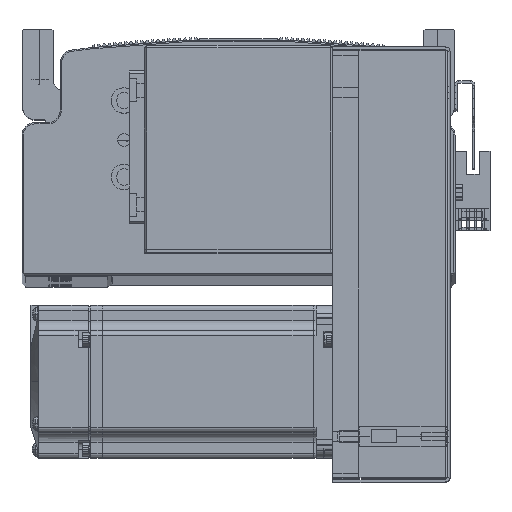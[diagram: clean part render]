
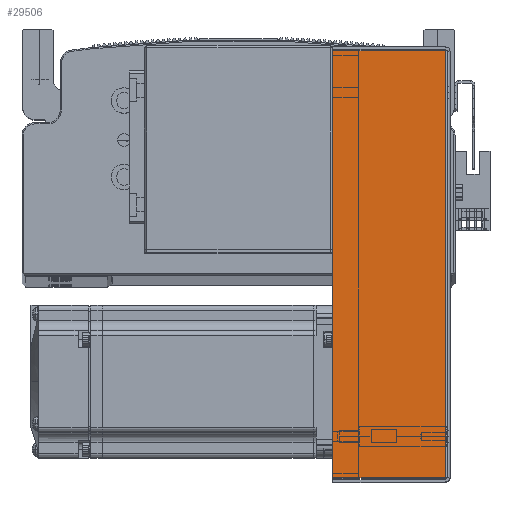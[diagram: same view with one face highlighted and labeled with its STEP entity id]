
A CAD part, top view. The second image highlights one B-rep face of the part: STEP entity #29506.
In plain terms, the highlighted planar face has unit normal (0, 0, 1) as drawn and (0, 0, -1) by its records, which use the part's own axes.
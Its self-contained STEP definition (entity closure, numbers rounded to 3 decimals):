
#5498 = EDGE_CURVE ( 'NONE', #64483, #64485, #33702, .T. ) ;
#5528 = EDGE_CURVE ( 'NONE', #64481, #64485, #33642, .T. ) ;
#5538 = EDGE_CURVE ( 'NONE', #64525, #64483, #33439, .T. ) ;
#5555 = EDGE_CURVE ( 'NONE', #64525, #64481, #30036, .T. ) ;
#13250 = FACE_OUTER_BOUND ( 'NONE', #34453, .T. ) ;
#18194 = AXIS2_PLACEMENT_3D ( 'NONE', #46067, #46049, #46068 ) ;
#29506 = ADVANCED_FACE ( 'NONE', ( #13250 ), #46066, .F. ) ;
#30019 = VECTOR ( 'NONE', #92920, 1000. ) ;
#30036 = LINE ( 'NONE', #92912, #30019 ) ;
#33439 = LINE ( 'NONE', #92865, #33533 ) ;
#33533 = VECTOR ( 'NONE', #92867, 1000. ) ;
#33642 = LINE ( 'NONE', #92854, #33682 ) ;
#33682 = VECTOR ( 'NONE', #92850, 1000. ) ;
#33702 = LINE ( 'NONE', #92873, #33704 ) ;
#33704 = VECTOR ( 'NONE', #92840, 1000. ) ;
#34453 = EDGE_LOOP ( 'NONE', ( #88496, #88500, #88557, #88510 ) ) ;
#46049 = DIRECTION ( 'NONE',  ( 0., 0., 1. ) ) ;
#46066 = PLANE ( 'NONE',  #18194 ) ;
#46067 = CARTESIAN_POINT ( 'NONE',  ( 0., 0., -40.5 ) ) ;
#46068 = DIRECTION ( 'NONE',  ( 0., -1., 0. ) ) ;
#64481 = VERTEX_POINT ( 'NONE', #77579 ) ;
#64483 = VERTEX_POINT ( 'NONE', #77625 ) ;
#64485 = VERTEX_POINT ( 'NONE', #77639 ) ;
#64525 = VERTEX_POINT ( 'NONE', #77595 ) ;
#77579 = CARTESIAN_POINT ( 'NONE',  ( 83.793, 0.737, -40.5 ) ) ;
#77595 = CARTESIAN_POINT ( 'NONE',  ( -83.793, 0.737, -40.5 ) ) ;
#77625 = CARTESIAN_POINT ( 'NONE',  ( -83.793, 45., -40.5 ) ) ;
#77639 = CARTESIAN_POINT ( 'NONE',  ( 83.793, 45., -40.5 ) ) ;
#88496 = ORIENTED_EDGE ( 'NONE', *, *, #5555, .F. ) ;
#88500 = ORIENTED_EDGE ( 'NONE', *, *, #5538, .T. ) ;
#88510 = ORIENTED_EDGE ( 'NONE', *, *, #5528, .F. ) ;
#88557 = ORIENTED_EDGE ( 'NONE', *, *, #5498, .T. ) ;
#92840 = DIRECTION ( 'NONE',  ( 1., 0., 0. ) ) ;
#92850 = DIRECTION ( 'NONE',  ( 0., 1., 0. ) ) ;
#92854 = CARTESIAN_POINT ( 'NONE',  ( 83.793, 0., -40.5 ) ) ;
#92865 = CARTESIAN_POINT ( 'NONE',  ( -83.793, 0., -40.5 ) ) ;
#92867 = DIRECTION ( 'NONE',  ( 0., 1., 0. ) ) ;
#92873 = CARTESIAN_POINT ( 'NONE',  ( 84.5, 45., -40.5 ) ) ;
#92912 = CARTESIAN_POINT ( 'NONE',  ( 0., 0.737, -40.5 ) ) ;
#92920 = DIRECTION ( 'NONE',  ( 1., 0., 0. ) ) ;
